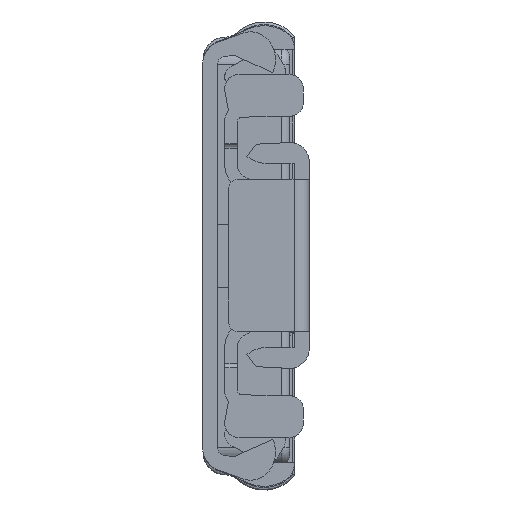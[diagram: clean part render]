
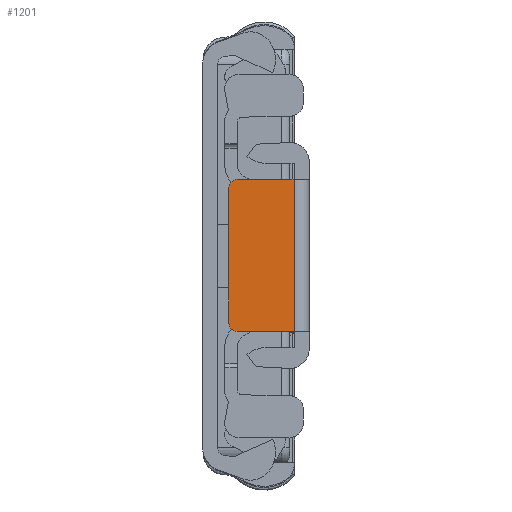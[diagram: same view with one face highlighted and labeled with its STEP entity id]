
A CAD part, front view. The second image highlights one B-rep face of the part: STEP entity #1201.
In plain terms, the highlighted planar face has unit normal (0, -1, 0).
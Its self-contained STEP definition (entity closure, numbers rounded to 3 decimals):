
#1201 = ADVANCED_FACE( '', ( #2645 ), #2646, .T. );
#2645 = FACE_OUTER_BOUND( '', #4421, .T. );
#2646 = PLANE( '', #4422 );
#4421 = EDGE_LOOP( '', ( #7721, #7722, #7723, #7724, #7725, #7726 ) );
#4422 = AXIS2_PLACEMENT_3D( '', #7727, #7728, #7729 );
#7721 = ORIENTED_EDGE( '', *, *, #11000, .T. );
#7722 = ORIENTED_EDGE( '', *, *, #11676, .T. );
#7723 = ORIENTED_EDGE( '', *, *, #11177, .T. );
#7724 = ORIENTED_EDGE( '', *, *, #11740, .T. );
#7725 = ORIENTED_EDGE( '', *, *, #11206, .T. );
#7726 = ORIENTED_EDGE( '', *, *, #11201, .T. );
#7727 = CARTESIAN_POINT( '', ( -9., -325.302, -2.366 ) );
#7728 = DIRECTION( '', ( 0., -1., 0. ) );
#7729 = DIRECTION( '', ( 0., 0., -1. ) );
#11000 = EDGE_CURVE( '', #13444, #13442, #13445, .T. );
#11177 = EDGE_CURVE( '', #13722, #13723, #13724, .T. );
#11201 = EDGE_CURVE( '', #13761, #13444, #13762, .T. );
#11206 = EDGE_CURVE( '', #13769, #13761, #13770, .T. );
#11676 = EDGE_CURVE( '', #13442, #13722, #14462, .T. );
#11740 = EDGE_CURVE( '', #13723, #13769, #14556, .T. );
#13442 = VERTEX_POINT( '', #16739 );
#13444 = VERTEX_POINT( '', #16742 );
#13445 = LINE( '', #16743, #16744 );
#13722 = VERTEX_POINT( '', #17136 );
#13723 = VERTEX_POINT( '', #17137 );
#13724 = LINE( '', #17138, #17139 );
#13761 = VERTEX_POINT( '', #17189 );
#13762 = CIRCLE( '', #17190, 1. );
#13769 = VERTEX_POINT( '', #17199 );
#13770 = LINE( '', #17200, #17201 );
#14462 = CIRCLE( '', #18232, 1. );
#14556 = LINE( '', #18364, #18365 );
#16739 = CARTESIAN_POINT( '', ( -8., -325.302, 5.8 ) );
#16742 = CARTESIAN_POINT( '', ( 8., -325.302, 5.8 ) );
#16743 = CARTESIAN_POINT( '', ( 9., -325.302, 5.8 ) );
#16744 = VECTOR( '', #20352, 1000. );
#17136 = CARTESIAN_POINT( '', ( -9., -325.302, 4.8 ) );
#17137 = CARTESIAN_POINT( '', ( -9., -325.302, -1.898 ) );
#17138 = CARTESIAN_POINT( '', ( -9., -325.302, -2.366 ) );
#17139 = VECTOR( '', #20567, 1000. );
#17189 = CARTESIAN_POINT( '', ( 9., -325.302, 4.8 ) );
#17190 = AXIS2_PLACEMENT_3D( '', #20596, #20597, #20598 );
#17199 = CARTESIAN_POINT( '', ( 9., -325.302, -1.898 ) );
#17200 = CARTESIAN_POINT( '', ( 9., -325.302, -2.366 ) );
#17201 = VECTOR( '', #20604, 1000. );
#18232 = AXIS2_PLACEMENT_3D( '', #21201, #21202, #21203 );
#18364 = CARTESIAN_POINT( '', ( -9., -325.302, -1.898 ) );
#18365 = VECTOR( '', #21275, 1000. );
#20352 = DIRECTION( '', ( -1., 0., 0. ) );
#20567 = DIRECTION( '', ( 0., 0., -1. ) );
#20596 = CARTESIAN_POINT( '', ( 8., -325.302, 4.8 ) );
#20597 = DIRECTION( '', ( 0., -1., 0. ) );
#20598 = DIRECTION( '', ( 0., 0., -1. ) );
#20604 = DIRECTION( '', ( 0., 0., 1. ) );
#21201 = CARTESIAN_POINT( '', ( -8., -325.302, 4.8 ) );
#21202 = DIRECTION( '', ( 0., -1., 0. ) );
#21203 = DIRECTION( '', ( 0., 0., -1. ) );
#21275 = DIRECTION( '', ( 1., 0., 0. ) );
